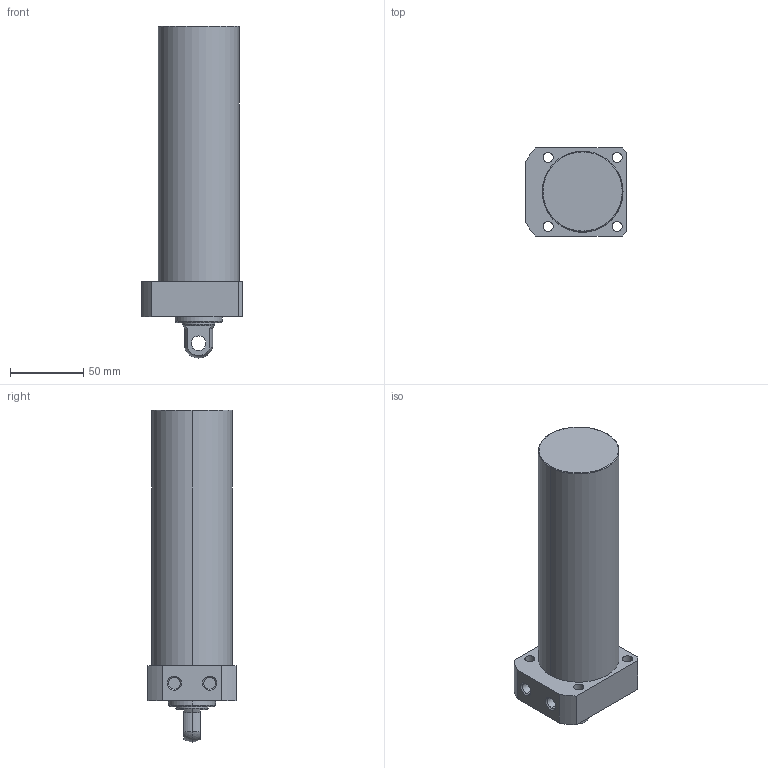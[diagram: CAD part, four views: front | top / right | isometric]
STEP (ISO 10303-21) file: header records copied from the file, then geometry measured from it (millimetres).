
FILE_DESCRIPTION (( 'STEP AP203' ), '1' );
FILE_NAME ('CLLR-055CP-145.STEP', '2019-12-17T12:42:28', ( '' ), ( '' ), 'SwSTEP 2.0', 'SolidWorks 2015', '' );
FILE_SCHEMA (( 'CONFIG_CONTROL_DESIGN' ));
Length unit declared in the file: millimetre
Products named in the file (1): CLLR-055CP-145
Bounding box: 69 x 60 x 226 mm (x, y, z)
Volume: 512918.2 mm3; surface area: 48283.1 mm2
Topology: 1 solids, 1 shells, 59 faces, 139 edges, 89 vertices
Faces by surface type: cylinder 29, plane 18, cone 8, torus 2, sphere 2
Entity records: 1822 total; most frequent: DIRECTION 331, CARTESIAN_POINT 300, ORIENTED_EDGE 278, EDGE_CURVE 139, AXIS2_PLACEMENT_3D 136, VERTEX_POINT 89, CIRCLE 76, EDGE_LOOP 76
